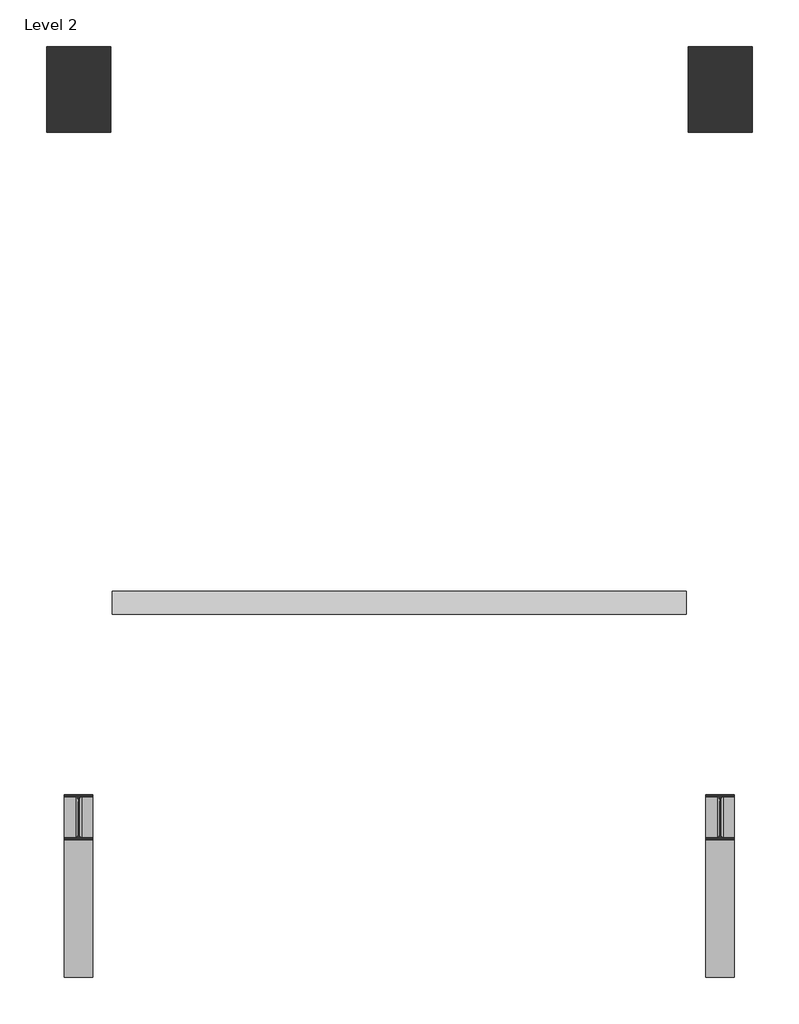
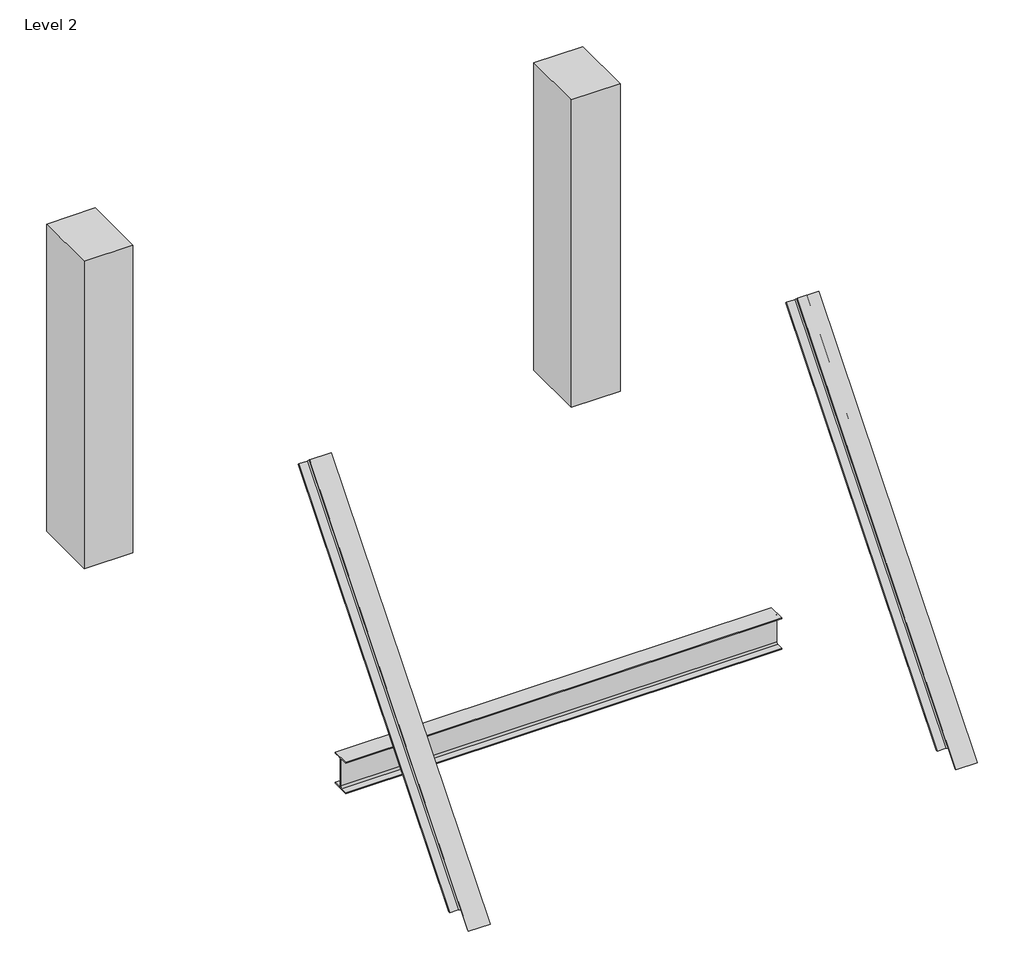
# One storey: 4 columns, 1 beam.
"""IFC4 building model written with IfcOpenShell, lengths in millimetres."""

import ifcopenshell
import ifcopenshell.guid

model = None  # the IFC model being written
_history = None  # IfcOwnerHistory: only IFC2X3 demands one
_inside = {}  # id of a spatial element -> (the spatial element, [elements in it])
_under = {}  # id of a project, library or spatial element -> (it, [spatial elements below it])
_declared = {}  # id of a project -> (the project, [libraries it declares])
_typed = {}  # id of a type object -> (the type object, [elements of that type])
_made_of = {}  # id of a material, layer set ... -> (it, [elements and type objects made of it])


def new_model(schema):
    """Start an empty IFC model of exactly this schema.

    Asked for "IFC4X3", IfcOpenShell would pick the latest addendum, in which some entities
    have other attributes; the version numbers below select the first issue.
    IFC2X3 requires an IfcOwnerHistory on every rooted entity: one is made here for all.
    """
    global model, _history
    if schema == "IFC4X3":
        model = ifcopenshell.file(schema_version=(4, 3, 0, 0))
    else:
        model = ifcopenshell.file(schema=schema)
    _inside.clear()
    _under.clear()
    _declared.clear()
    _typed.clear()
    _made_of.clear()
    _history = None
    if model.schema == "IFC2X3":
        org = make("IfcOrganization", Name="unknown")
        user = make(
            "IfcPersonAndOrganization",
            ThePerson=make("IfcPerson", FamilyName="unknown"),
            TheOrganization=org,
        )
        app = make(
            "IfcApplication",
            ApplicationDeveloper=org,
            Version="unknown",
            ApplicationFullName="unknown",
            ApplicationIdentifier="unknown",
        )
        _history = make(
            "IfcOwnerHistory",
            OwningUser=user,
            OwningApplication=app,
            ChangeAction="ADDED",
            CreationDate=0,
        )
    return model


def make(cls, **values):
    """One entity of the class cls with the attributes given. An attribute that is None is left unset."""
    return model.create_entity(
        cls, **{name: value for name, value in values.items() if value is not None}
    )


def rooted(cls, **values):
    """An entity with a GlobalId (a new one), such as an element, a storey or a relation."""
    return make(cls, GlobalId=ifcopenshell.guid.new(), OwnerHistory=_history, **values)


def si_unit(unit_type, name, prefix=None):
    """IfcSIUnit, for example si_unit("LENGTHUNIT", "METRE", prefix="MILLI")."""
    return make("IfcSIUnit", UnitType=unit_type, Prefix=prefix, Name=name)


def assignment(units):
    """IfcUnitAssignment: the units of a project."""
    return None if units is None else make("IfcUnitAssignment", Units=units)


def point(xyz):
    """IfcCartesianPoint."""
    return None if xyz is None else make("IfcCartesianPoint", Coordinates=xyz)


def direction(xyz):
    """IfcDirection."""
    return None if xyz is None else make("IfcDirection", DirectionRatios=xyz)


def frame(location, z_axis=None, x_axis=None):
    """IfcAxis2Placement3D, a coordinate frame: its origin and axes. An axis left out is left unset."""
    return make(
        "IfcAxis2Placement3D",
        Location=point(location),
        Axis=direction(z_axis),
        RefDirection=direction(x_axis),
    )


def frame_2d(location, x_axis=None):
    """IfcAxis2Placement2D, a coordinate frame in the plane: its origin and x axis."""
    return make(
        "IfcAxis2Placement2D", Location=point(location), RefDirection=direction(x_axis)
    )


def origin():
    """The frame at (0, 0, 0) with its axes left unset."""
    return frame((0.0, 0.0, 0.0))


def place(relative_to, where):
    """IfcLocalPlacement: puts the frame where relative to a parent placement (None: the world)."""
    return make(
        "IfcLocalPlacement", PlacementRelTo=relative_to, RelativePlacement=where
    )


def context(
    kind, dimensions, precision=None, world=None, true_north=None, identifier=None
):
    """IfcGeometricRepresentationContext, for example the 3D "Model" context."""
    return make(
        "IfcGeometricRepresentationContext",
        ContextIdentifier=identifier,
        ContextType=kind,
        CoordinateSpaceDimension=dimensions,
        Precision=precision,
        WorldCoordinateSystem=world,
        TrueNorth=true_north,
    )


def project(units=None, contexts=None):
    """IfcProject with its units and contexts."""
    return rooted(
        "IfcProject",
        Name="project",
        RepresentationContexts=contexts,
        UnitsInContext=assignment(units),
    )


def spatial(cls, under=None, at=None, **own):
    """A site, building, storey or space (cls), placed at a placement, below another one or the project."""
    s = rooted(cls, ObjectPlacement=at, **own)
    if under is not None:
        _under.setdefault(under.id(), (under, []))[1].append(s)
    return s


def polyline(points):
    """IfcPolyline through the points."""
    return make("IfcPolyline", Points=[point(p) for p in points])


def circle_curve(where, radius):
    """IfcCircle in the frame where."""
    return make("IfcCircle", Position=where, Radius=radius)


def ellipse_curve(where, semi_axis1, semi_axis2):
    """IfcEllipse in the frame where."""
    return make(
        "IfcEllipse", Position=where, SemiAxis1=semi_axis1, SemiAxis2=semi_axis2
    )


def trimmed(basis, trim1, trim2, sense, master):
    """IfcTrimmedCurve: the piece of a basis curve between two trims."""
    return make(
        "IfcTrimmedCurve",
        BasisCurve=basis,
        Trim1=trim1,
        Trim2=trim2,
        SenseAgreement=sense,
        MasterRepresentation=master,
    )


def segment(curve, same_sense, transition):
    """IfcCompositeCurveSegment."""
    return make(
        "IfcCompositeCurveSegment",
        Transition=transition,
        SameSense=same_sense,
        ParentCurve=curve,
    )


def composite_curve(segments, self_intersect=None):
    """IfcCompositeCurve: segments joined end to end."""
    return make("IfcCompositeCurve", Segments=segments, SelfIntersect=self_intersect)


def outline(outer, holes=None, kind="AREA"):
    """IfcArbitraryClosedProfileDef: a profile drawn as a closed curve; with holes, ...WithVoids."""
    if holes is None:
        return make("IfcArbitraryClosedProfileDef", ProfileType=kind, OuterCurve=outer)
    return make(
        "IfcArbitraryProfileDefWithVoids",
        ProfileType=kind,
        OuterCurve=outer,
        InnerCurves=holes,
    )


def extrude(swept, where, along, depth):
    """IfcExtrudedAreaSolid: the profile swept, set in the frame where, extruded along a direction by depth."""
    return make(
        "IfcExtrudedAreaSolid",
        SweptArea=swept,
        Position=where,
        ExtrudedDirection=direction(along),
        Depth=depth,
    )


def shape(context_of_items, identifier, shape_type, items):
    """IfcShapeRepresentation: the items that make up one representation, for example the "Body"."""
    return make(
        "IfcShapeRepresentation",
        ContextOfItems=context_of_items,
        RepresentationIdentifier=identifier,
        RepresentationType=shape_type,
        Items=items,
    )


def source(mapping_origin, context_of_items, identifier, shape_type, items):
    """IfcRepresentationMap: a shape defined once, which mapped items show again and again."""
    return make(
        "IfcRepresentationMap",
        MappingOrigin=mapping_origin,
        MappedRepresentation=shape(context_of_items, identifier, shape_type, items),
    )


def transform(
    local_origin,
    x_axis=None,
    y_axis=None,
    z_axis=None,
    scale=None,
    scale2=None,
    scale3=None,
    uniform=True,
):
    """IfcCartesianTransformationOperator3D, or its non-uniform kind. x_axis, y_axis, z_axis: its Axis1, 2, 3."""
    if uniform:
        return make(
            "IfcCartesianTransformationOperator3D",
            Axis1=direction(x_axis),
            Axis2=direction(y_axis),
            LocalOrigin=point(local_origin),
            Scale=scale,
            Axis3=direction(z_axis),
        )
    return make(
        "IfcCartesianTransformationOperator3DnonUniform",
        Axis1=direction(x_axis),
        Axis2=direction(y_axis),
        LocalOrigin=point(local_origin),
        Scale=scale,
        Axis3=direction(z_axis),
        Scale2=scale2,
        Scale3=scale3,
    )


def mapped(mapping_source, mapping_target):
    """IfcMappedItem: shows the shape of a source again, moved by a transform."""
    return make(
        "IfcMappedItem", MappingSource=mapping_source, MappingTarget=mapping_target
    )


def made_of(thing, what):
    """Note that an element or type object is made of a material, layer set ...; save() writes the relation."""
    if what is not None:
        _made_of.setdefault(what.id(), (what, []))[1].append(thing)
    return thing


def element(
    cls,
    number,
    at=None,
    inside=None,
    cuts=None,
    type_object=None,
    material=None,
    context=None,
    identifier="Body",
    shape_type=None,
    held_by="IfcProductDefinitionShape",
    body=None,
    shapes=None,
    **own,
):
    """One element of the class cls, such as IfcWall. Its Tag is "e" and its number.

    at: its placement. inside: the storey or other place that contains it. cuts: it is an
    opening in that element (IfcRelVoidsElement). A single representation is given by context,
    identifier, shape_type and body (its items); several are given by shapes. held_by: the class
    of the entity that holds the representations. save() writes the other relations.
    """
    e = rooted(cls, Tag="e%d" % number, ObjectPlacement=at, **own)
    if body is not None:
        shapes = [shape(context, identifier, shape_type, body)]
    if shapes is not None:
        e.Representation = make(held_by, Representations=shapes)
    if inside is not None:
        _inside.setdefault(inside.id(), (inside, []))[1].append(e)
    if cuts is not None:
        rooted(
            "IfcRelVoidsElement", RelatingBuildingElement=cuts, RelatedOpeningElement=e
        )
    if type_object is not None:
        _typed.setdefault(type_object.id(), (type_object, []))[1].append(e)
    return made_of(e, material)


def aggregate(whole, parts):
    """IfcRelAggregates: a whole, such as a stair, and the parts it consists of."""
    return rooted("IfcRelAggregates", RelatingObject=whole, RelatedObjects=parts)


def save(model, path):
    """Write the relations noted so far, then the file.

    IfcRelAggregates (storeys below a building ...), IfcRelContainedInSpatialStructure (elements
    in a storey), IfcRelDefinesByType, IfcRelAssociatesMaterial and IfcRelDeclares: one each for
    every whole, place, type object, material and project.
    """
    for whole, parts in _under.values():
        aggregate(whole, parts)
    for where, things in _inside.values():
        rooted(
            "IfcRelContainedInSpatialStructure",
            RelatedElements=things,
            RelatingStructure=where,
        )
    for kind, things in _typed.values():
        rooted("IfcRelDefinesByType", RelatedObjects=things, RelatingType=kind)
    for what, things in _made_of.values():
        rooted("IfcRelAssociatesMaterial", RelatedObjects=things, RelatingMaterial=what)
    for by, libraries in _declared.values():
        rooted("IfcRelDeclares", RelatingContext=by, RelatedDefinitions=libraries)
    model.write(path)


def plane_surface(at):
    """IfcPlane: the flat surface through the origin of the frame at, square to its z axis."""
    return make("IfcPlane", Position=at)


def revolved_surface(curve, axis_point, axis_direction):
    """IfcSurfaceOfRevolution: the curve turned about the line through axis_point along axis_direction."""
    return make(
        "IfcSurfaceOfRevolution",
        SweptCurve=make("IfcArbitraryOpenProfileDef", ProfileType="CURVE", Curve=curve),
        AxisPosition=make("IfcAxis1Placement", Location=point(axis_point), Axis=direction(axis_direction)),
    )


def advanced_brep(points, edges, surfaces, faces):
    """IfcAdvancedBrep: a solid bounded by faces that lie on surfaces and meet in shared edges.

    An edge is (start, end): straight between two places in points (the first is 0);
    or (start, end, curve); or (start, end, curve, False) where it runs against its curve.
    A face is (place in surfaces, loops), or (place, loops, False) where it looks against
    its surface's normal. A loop lists edges by number (the first is 1), with a minus sign
    where the edge is run from its end to its start. The first loop is the outer one.
    """
    corners = [point(p) for p in points]
    vertices = [make("IfcVertexPoint", VertexGeometry=c) for c in corners]
    made = []
    for start, end, *more in edges:
        made.append(
            make(
                "IfcEdgeCurve",
                EdgeStart=vertices[start],
                EdgeEnd=vertices[end],
                EdgeGeometry=more[0] if more else make("IfcPolyline", Points=[corners[start], corners[end]]),
                SameSense=more[1] if len(more) > 1 else True,
            )
        )
    hull = []
    for where, loops, *sense in faces:
        bounds = []
        for j, loop in enumerate(loops):
            ring = [make("IfcOrientedEdge", EdgeElement=made[abs(k) - 1], Orientation=k > 0) for k in loop]
            bounds.append(
                make(
                    "IfcFaceOuterBound" if j == 0 else "IfcFaceBound",
                    Bound=make("IfcEdgeLoop", EdgeList=ring),
                    Orientation=True,
                )
            )
        hull.append(make("IfcAdvancedFace", Bounds=bounds, FaceSurface=surfaces[where], SameSense=sense[0] if sense else True))
    return make("IfcAdvancedBrep", Outer=make("IfcClosedShell", CfsFaces=hull))


def w_wide_flange_w12x26_f50af644(model_context):
    return source(origin(), model_context, "Body", "SweptSolid", [
        extrude(outline(composite_curve([segment(polyline([(82.4011719, -145.5539063), (82.4011719, -155.178125), (-82.4011719, -155.178125), (-82.4011719, -145.5539063), (-20.2902344, -145.5539063)]), True, "CONTINUOUS"), segment(trimmed(circle_curve(frame_2d((-20.2902344, -128.190625)), 17.3632812), [point((-20.2902344, -145.5539063))], [point((-2.9269531, -128.190625))], True, "CARTESIAN"), True, "CONTINUOUS"), segment(polyline([(-2.9269531, -128.190625), (-2.9269531, 128.190625)]), True, "CONTINUOUS"), segment(trimmed(circle_curve(frame_2d((-20.2902344, 128.190625)), 17.3632812), [point((-2.9269531, 128.190625))], [point((-20.2902344, 145.5539062))], True, "CARTESIAN"), True, "CONTINUOUS"), segment(polyline([(-20.2902344, 145.5539062), (-82.4011719, 145.5539062), (-82.4011719, 155.178125), (82.4011719, 155.178125), (82.4011719, 145.5539062), (20.2902344, 145.5539062)]), True, "CONTINUOUS"), segment(trimmed(circle_curve(frame_2d((20.2902344, 128.190625)), 17.3632812), [point((20.2902344, 145.5539062))], [point((2.9269531, 128.190625))], True, "CARTESIAN"), True, "CONTINUOUS"), segment(polyline([(2.9269531, 128.190625), (2.9269531, -128.190625)]), True, "CONTINUOUS"), segment(trimmed(circle_curve(frame_2d((20.2902344, -128.190625)), 17.3632812), [point((2.9269531, -128.190625))], [point((20.2902344, -145.5539063))], True, "CARTESIAN"), True, "CONTINUOUS"), segment(polyline([(20.2902344, -145.5539063), (82.4011719, -145.5539063)]), True, "CONTINUOUS")], self_intersect=False)), frame((-2044.7, 0.0, 0.0), z_axis=(1.0, 0.0, 0.0), x_axis=(0.0, 1.0, 0.0)), (0.0, 0.0, 1.0), 4089.4),
    ])


model = new_model("IFC4")

# Units and contexts
model_context = context("Model", 3, world=origin())
ifc_project = project(units=[si_unit("LENGTHUNIT", "METRE", prefix="MILLI")], contexts=[model_context])

# Site, building, storey
site = spatial("IfcSite", under=ifc_project)
building = spatial("IfcBuilding", under=site)
storey = spatial("IfcBuildingStorey", under=building, Name="Level 2", Elevation=3048.0)

# Beam
placement = place(None, origin())
w_wide_flange_w12x26_shape = w_wide_flange_w12x26_f50af644(model_context)
element("IfcBeam", 1, ObjectType="W-Wide Flange : W12X26", at=placement, inside=storey, context=model_context, shape_type="MappedRepresentation", body=[
    mapped(w_wide_flange_w12x26_shape, transform((-15108.9871131, 6535.561515, 2892.821875), x_axis=(1.0, 0.0, 0.0), y_axis=(0.0, 1.0, 0.0), z_axis=(0.0, 0.0, 1.0))),
])

# Columns
element("IfcColumn", 2, ObjectType="Concrete-Rectangular-Column : 18 x 24", at=placement, inside=storey, context=model_context, shape_type="SweptSolid", body=[
    extrude(outline(polyline([(-17166.3871131, 10497.961515), (-17166.3871131, 9888.361515), (-17623.5871131, 9888.361515), (-17623.5871131, 10497.961515), (-17166.3871131, 10497.961515)])), frame((0.0, 0.0, 3048.0), z_axis=(0.0, 0.0, 1.0), x_axis=(1.0, 0.0, 0.0)), (0.0, 0.0, 1.0), 3048.0),
])
element("IfcColumn", 3, ObjectType="Concrete-Rectangular-Column : 18 x 24", at=placement, inside=storey, context=model_context, shape_type="SweptSolid", body=[
    extrude(outline(polyline([(-12594.3871131, 10497.961515), (-12594.3871131, 9888.361515), (-13051.5871131, 9888.361515), (-13051.5871131, 10497.961515), (-12594.3871131, 10497.961515)])), frame((0.0, 0.0, 3048.0), z_axis=(0.0, 0.0, 1.0), x_axis=(1.0, 0.0, 0.0)), (0.0, 0.0, 1.0), 3048.0),
])
element("IfcColumn", 4, ObjectType="W-Wide Flange-Column : W10X33", at=placement, inside=storey, context=model_context, shape_type="AdvancedBrep", body=[
    advanced_brep(
    [(-17293.8832068, 3864.141078, 3060.7), (-17496.0910193, 3864.141078, 3060.7), (-17496.0910193, 3878.4345568, 3060.7), (-17416.2199256, 3878.4345568, 3060.7), (-17398.6582068, 3901.2268608, 3060.7), (-17398.6582068, 4147.8215624, 3060.7), (-17416.2199256, 4170.6138664, 3060.7), (-17496.0910193, 4170.6138664, 3060.7), (-17496.0910193, 4184.9073452, 3060.7), (-17293.8832068, 4184.9073452, 3060.7), (-17293.8832068, 4170.6138664, 3060.7), (-17373.7543006, 4170.6138664, 3060.7), (-17391.3160193, 4147.8215624, 3060.7), (-17391.3160193, 3901.2268608, 3060.7), (-17373.7543006, 3878.4345568, 3060.7), (-17293.8832068, 3878.4345568, 3060.7), (-17496.0910193, 6440.3441253, 6174.771264), (-17293.8832068, 6440.3441253, 6174.771264), (-17293.8832068, 6448.8299786, 6167.7511032), (-17373.7543006, 6448.8299786, 6167.7511032), (-17391.3160193, 6462.3614743, 6156.5567927), (-17391.3160193, 6608.7615557, 6035.4432073), (-17373.7543006, 6622.2930515, 6024.2488968), (-17293.8832068, 6622.2930515, 6024.2488968), (-17293.8832068, 6630.7789048, 6017.228736), (-17496.0910193, 6630.7789048, 6017.228736), (-17496.0910193, 6622.2930515, 6024.2488968), (-17416.2199256, 6622.2930515, 6024.2488968), (-17398.6582068, 6608.7615557, 6035.4432073), (-17398.6582068, 6462.3614743, 6156.5567927), (-17416.2199256, 6448.8299786, 6167.7511032), (-17496.0910193, 6448.8299786, 6167.7511032)],
    [
        (0, 1),
        (1, 2),
        (2, 3),
        (3, 4, ellipse_curve(frame((-17416.2199256, 3901.2268608, 3060.7), z_axis=(0.0, 0.0, 1.0), x_axis=(0.0, -1.0, 0.0)), 22.792304, 17.5617187)),
        (4, 5),
        (5, 6, ellipse_curve(frame((-17416.2199256, 4147.8215624, 3060.7), z_axis=(0.0, 0.0, 1.0), x_axis=(0.0, -1.0, 0.0)), 22.792304, 17.5617187)),
        (6, 7),
        (7, 8),
        (8, 9),
        (9, 10),
        (10, 11),
        (11, 12, ellipse_curve(frame((-17373.7543006, 4147.8215624, 3060.7), z_axis=(0.0, 0.0, 1.0), x_axis=(0.0, -1.0, 0.0)), 22.792304, 17.5617187)),
        (12, 13),
        (13, 14, ellipse_curve(frame((-17373.7543006, 3901.2268608, 3060.7), z_axis=(0.0, 0.0, 1.0), x_axis=(0.0, -1.0, 0.0)), 22.792304, 17.5617187)),
        (14, 15),
        (15, 0),
        (16, 17),
        (17, 18),
        (18, 19),
        (19, 20, circle_curve(frame((-17373.7543006, 6462.3614743, 6156.5567927), z_axis=(0.0, -0.6374268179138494, -0.7705109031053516), x_axis=(-1.0, 0.0, 0.0)), 17.5617187)),
        (20, 21),
        (21, 22, circle_curve(frame((-17373.7543006, 6608.7615557, 6035.4432073), z_axis=(0.0, -0.6374268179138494, -0.7705109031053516), x_axis=(-1.0, 0.0, 0.0)), 17.5617188)),
        (22, 23),
        (23, 24),
        (24, 25),
        (25, 26),
        (26, 27),
        (27, 28, circle_curve(frame((-17416.2199256, 6608.7615557, 6035.4432073), z_axis=(0.0, -0.6374268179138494, -0.7705109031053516), x_axis=(-1.0, 0.0, 0.0)), 17.5617188)),
        (28, 29),
        (29, 30, circle_curve(frame((-17416.2199256, 6462.3614743, 6156.5567927), z_axis=(0.0, -0.6374268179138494, -0.7705109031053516), x_axis=(-1.0, 0.0, 0.0)), 17.5617188)),
        (30, 31),
        (31, 16),
        (16, 1),
        (0, 17),
        (15, 18),
        (14, 19),
        (13, 20),
        (12, 21),
        (11, 22),
        (10, 23),
        (9, 24),
        (8, 25),
        (7, 26),
        (6, 27),
        (5, 28),
        (4, 29),
        (3, 30),
        (2, 31),
    ],
    [
        plane_surface(frame((-17394.9871131, 4014.0177794, 3060.7), z_axis=(0.0, 0.0, -1.0), x_axis=(1.0, 0.0, 0.0))),
        plane_surface(frame((-17293.8832068, 6440.3441253, 6174.771264), z_axis=(0.0, 0.6374268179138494, 0.7705109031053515), x_axis=(1.0, 0.0, 0.0))),
        plane_surface(frame((-17496.0910193, 6440.3441253, 6174.771264), z_axis=(0.0, -0.7705109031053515, 0.6374268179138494), x_axis=(0.0, -0.6374268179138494, -0.7705109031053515))),
        plane_surface(frame((-17293.8832068, 6440.3441253, 6174.771264), z_axis=(1.0, 0.0, 0.0), x_axis=(0.0, -0.6374268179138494, -0.7705109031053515))),
        plane_surface(frame((-17293.8832068, 6448.8299786, 6167.7511032), z_axis=(0.0, 0.7705109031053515, -0.6374268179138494), x_axis=(0.0, -0.6374268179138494, -0.7705109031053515))),
        revolved_surface(polyline([(-17391.3160193, 3891.966052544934, 3049.505689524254), (-17391.3160193, 6462.361474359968, 6156.556792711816)]), (-17373.7543006, 3687.1476276, 2801.9245945), (0.0, -0.6374268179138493, -0.7705109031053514)),
        plane_surface(frame((-17391.3160193, 6462.3614743, 6156.5567927), z_axis=(1.0, 0.0, 0.0), x_axis=(0.0, -0.6374268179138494, -0.7705109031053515))),
        revolved_surface(polyline([(-17391.3160193, 4138.560754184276, 3049.505689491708), (-17391.3160193, 6608.76155574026, 6035.443207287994)]), (-17373.7543006, 3833.547709, 2680.8110091), (0.0, -0.6374268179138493, -0.7705109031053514)),
        plane_surface(frame((-17373.7543006, 6622.2930515, 6024.2488968), z_axis=(0.0, -0.7705109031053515, 0.6374268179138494), x_axis=(0.0, -0.6374268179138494, -0.7705109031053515))),
        plane_surface(frame((-17293.8832068, 6622.2930515, 6024.2488968), z_axis=(1.0, 0.0, 0.0), x_axis=(0.0, -0.6374268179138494, -0.7705109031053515))),
        plane_surface(frame((-17293.8832068, 6630.7789048, 6017.228736), z_axis=(0.0, 0.7705109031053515, -0.6374268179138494), x_axis=(0.0, -0.6374268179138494, -0.7705109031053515))),
        plane_surface(frame((-17496.0910193, 6630.7789048, 6017.228736), z_axis=(-1.0, 0.0, 0.0), x_axis=(0.0, -0.6374268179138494, -0.7705109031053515))),
        plane_surface(frame((-17496.0910193, 6622.2930515, 6024.2488968), z_axis=(0.0, -0.7705109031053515, 0.6374268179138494), x_axis=(0.0, -0.6374268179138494, -0.7705109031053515))),
        revolved_surface(polyline([(-17433.781644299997, 4138.560754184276, 3049.505689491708), (-17433.781644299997, 6608.76155574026, 6035.443207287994)]), (-17416.2199256, 3833.547709, 2680.8110091), (0.0, -0.6374268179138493, -0.7705109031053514)),
        plane_surface(frame((-17398.6582068, 6608.7615557, 6035.4432073), z_axis=(-1.0, 0.0, 0.0), x_axis=(0.0, -0.6374268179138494, -0.7705109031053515))),
        revolved_surface(polyline([(-17433.781644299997, 3891.966052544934, 3049.505689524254), (-17433.781644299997, 6462.361474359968, 6156.556792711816)]), (-17416.2199256, 3687.1476276, 2801.9245945), (0.0, -0.6374268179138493, -0.7705109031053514)),
        plane_surface(frame((-17416.2199256, 6448.8299786, 6167.7511032), z_axis=(0.0, 0.7705109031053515, -0.6374268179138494), x_axis=(0.0, -0.6374268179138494, -0.7705109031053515))),
        plane_surface(frame((-17496.0910193, 6448.8299786, 6167.7511032), z_axis=(-1.0, 0.0, 0.0), x_axis=(0.0, -0.6374268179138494, -0.7705109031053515))),
    ],
    [
        (0, [[1, 2, 3, 4, 5, 6, 7, 8, 9, 10, 11, 12, 13, 14, 15, 16]]),
        (1, [[17, 18, 19, 20, 21, 22, 23, 24, 25, 26, 27, 28, 29, 30, 31, 32]]),
        (2, [[-17, 33, -1, 34]]),
        (3, [[-18, -34, -16, 35]]),
        (4, [[-19, -35, -15, 36]]),
        (5, [[-20, -36, -14, 37]]),
        (6, [[-21, -37, -13, 38]]),
        (7, [[-22, -38, -12, 39]]),
        (8, [[-23, -39, -11, 40]]),
        (9, [[-24, -40, -10, 41]]),
        (10, [[-25, -41, -9, 42]]),
        (11, [[-26, -42, -8, 43]]),
        (12, [[-27, -43, -7, 44]]),
        (13, [[-28, -44, -6, 45]]),
        (14, [[-29, -45, -5, 46]]),
        (15, [[-30, -46, -4, 47]]),
        (16, [[-31, -47, -3, 48]]),
        (17, [[-32, -48, -2, -33]]),
    ],
),
])
element("IfcColumn", 5, ObjectType="W-Wide Flange-Column : W10X33", at=placement, inside=storey, context=model_context, shape_type="AdvancedBrep", body=[
    advanced_brep(
    [(-12721.8832068, 3864.141078, 3060.7), (-12924.0910193, 3864.141078, 3060.7), (-12924.0910193, 3878.4345568, 3060.7), (-12844.2199256, 3878.4345568, 3060.7), (-12826.6582068, 3901.2268608, 3060.7), (-12826.6582068, 4147.8215624, 3060.7), (-12844.2199256, 4170.6138664, 3060.7), (-12924.0910193, 4170.6138664, 3060.7), (-12924.0910193, 4184.9073452, 3060.7), (-12721.8832068, 4184.9073452, 3060.7), (-12721.8832068, 4170.6138664, 3060.7), (-12801.7543006, 4170.6138664, 3060.7), (-12819.3160193, 4147.8215624, 3060.7), (-12819.3160193, 3901.2268608, 3060.7), (-12801.7543006, 3878.4345568, 3060.7), (-12721.8832068, 3878.4345568, 3060.7), (-12924.0910193, 6440.3441253, 6174.771264), (-12721.8832068, 6440.3441253, 6174.771264), (-12721.8832068, 6448.8299786, 6167.7511032), (-12801.7543006, 6448.8299786, 6167.7511032), (-12819.3160193, 6462.3614743, 6156.5567927), (-12819.3160193, 6608.7615557, 6035.4432073), (-12801.7543006, 6622.2930515, 6024.2488968), (-12721.8832068, 6622.2930515, 6024.2488968), (-12721.8832068, 6630.7789048, 6017.228736), (-12924.0910193, 6630.7789048, 6017.228736), (-12924.0910193, 6622.2930515, 6024.2488968), (-12844.2199256, 6622.2930515, 6024.2488968), (-12826.6582068, 6608.7615557, 6035.4432073), (-12826.6582068, 6462.3614743, 6156.5567927), (-12844.2199256, 6448.8299786, 6167.7511032), (-12924.0910193, 6448.8299786, 6167.7511032)],
    [
        (0, 1),
        (1, 2),
        (2, 3),
        (3, 4, ellipse_curve(frame((-12844.2199256, 3901.2268608, 3060.7), z_axis=(0.0, 0.0, 1.0), x_axis=(0.0, -0.9999999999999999, 0.0)), 22.792304, 17.5617187)),
        (4, 5),
        (5, 6, ellipse_curve(frame((-12844.2199256, 4147.8215624, 3060.7), z_axis=(0.0, 0.0, 1.0), x_axis=(0.0, -0.9999999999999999, 0.0)), 22.792304, 17.5617187)),
        (6, 7),
        (7, 8),
        (8, 9),
        (9, 10),
        (10, 11),
        (11, 12, ellipse_curve(frame((-12801.7543006, 4147.8215624, 3060.7), z_axis=(0.0, 0.0, 1.0), x_axis=(0.0, -0.9999999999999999, 0.0)), 22.792304, 17.5617187)),
        (12, 13),
        (13, 14, ellipse_curve(frame((-12801.7543006, 3901.2268608, 3060.7), z_axis=(0.0, 0.0, 1.0), x_axis=(0.0, -0.9999999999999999, 0.0)), 22.792304, 17.5617187)),
        (14, 15),
        (15, 0),
        (16, 17),
        (17, 18),
        (18, 19),
        (19, 20, circle_curve(frame((-12801.7543006, 6462.3614743, 6156.5567927), z_axis=(0.0, -0.6374268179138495, -0.7705109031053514), x_axis=(-1.0, 0.0, 0.0)), 17.5617188)),
        (20, 21),
        (21, 22, circle_curve(frame((-12801.7543006, 6608.7615557, 6035.4432073), z_axis=(0.0, -0.6374268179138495, -0.7705109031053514), x_axis=(-1.0, 0.0, 0.0)), 17.5617188)),
        (22, 23),
        (23, 24),
        (24, 25),
        (25, 26),
        (26, 27),
        (27, 28, circle_curve(frame((-12844.2199256, 6608.7615557, 6035.4432073), z_axis=(0.0, -0.6374268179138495, -0.7705109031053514), x_axis=(-1.0, 0.0, 0.0)), 17.5617187)),
        (28, 29),
        (29, 30, circle_curve(frame((-12844.2199256, 6462.3614743, 6156.5567927), z_axis=(0.0, -0.6374268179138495, -0.7705109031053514), x_axis=(-1.0, 0.0, 0.0)), 17.5617188)),
        (30, 31),
        (31, 16),
        (16, 1),
        (0, 17),
        (15, 18),
        (14, 19),
        (13, 20),
        (12, 21),
        (11, 22),
        (10, 23),
        (9, 24),
        (8, 25),
        (7, 26),
        (6, 27),
        (5, 28),
        (4, 29),
        (3, 30),
        (2, 31),
    ],
    [
        plane_surface(frame((-12822.9871131, 4014.0177794, 3060.7), z_axis=(0.0, 0.0, -1.0), x_axis=(1.0, 0.0, 0.0))),
        plane_surface(frame((-12721.8832068, 6440.3441253, 6174.771264), z_axis=(0.0, 0.6374268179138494, 0.7705109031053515), x_axis=(1.0, 0.0, 0.0))),
        plane_surface(frame((-12924.0910193, 6440.3441253, 6174.771264), z_axis=(0.0, -0.7705109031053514, 0.6374268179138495), x_axis=(0.0, -0.6374268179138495, -0.7705109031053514))),
        plane_surface(frame((-12721.8832068, 6440.3441253, 6174.771264), z_axis=(1.0, 0.0, 0.0), x_axis=(0.0, -0.6374268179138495, -0.7705109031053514))),
        plane_surface(frame((-12721.8832068, 6448.8299786, 6167.7511032), z_axis=(0.0, 0.7705109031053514, -0.6374268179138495), x_axis=(0.0, -0.6374268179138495, -0.7705109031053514))),
        revolved_surface(polyline([(-12819.3160193, 3891.9660525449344, 3049.505689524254), (-12819.3160193, 6462.361474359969, 6156.556792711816)]), (-12801.7543006, 3687.1476276, 2801.9245945), (0.0, -0.6374268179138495, -0.7705109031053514)),
        plane_surface(frame((-12819.3160193, 6462.3614743, 6156.5567927), z_axis=(1.0, 0.0, 0.0), x_axis=(0.0, -0.6374268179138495, -0.7705109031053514))),
        revolved_surface(polyline([(-12819.3160193, 4138.560754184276, 3049.505689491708), (-12819.3160193, 6608.7615557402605, 6035.443207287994)]), (-12801.7543006, 3833.547709, 2680.8110091), (0.0, -0.6374268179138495, -0.7705109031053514)),
        plane_surface(frame((-12801.7543006, 6622.2930515, 6024.2488968), z_axis=(0.0, -0.7705109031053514, 0.6374268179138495), x_axis=(0.0, -0.6374268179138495, -0.7705109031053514))),
        plane_surface(frame((-12721.8832068, 6622.2930515, 6024.2488968), z_axis=(1.0, 0.0, 0.0), x_axis=(0.0, -0.6374268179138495, -0.7705109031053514))),
        plane_surface(frame((-12721.8832068, 6630.7789048, 6017.228736), z_axis=(0.0, 0.7705109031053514, -0.6374268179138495), x_axis=(0.0, -0.6374268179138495, -0.7705109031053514))),
        plane_surface(frame((-12924.0910193, 6630.7789048, 6017.228736), z_axis=(-1.0, 0.0, 0.0), x_axis=(0.0, -0.6374268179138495, -0.7705109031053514))),
        plane_surface(frame((-12924.0910193, 6622.2930515, 6024.2488968), z_axis=(0.0, -0.7705109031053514, 0.6374268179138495), x_axis=(0.0, -0.6374268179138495, -0.7705109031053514))),
        revolved_surface(polyline([(-12861.781644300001, 4138.560754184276, 3049.505689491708), (-12861.781644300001, 6608.7615557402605, 6035.443207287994)]), (-12844.2199256, 3833.547709, 2680.8110091), (0.0, -0.6374268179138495, -0.7705109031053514)),
        plane_surface(frame((-12826.6582068, 6608.7615557, 6035.4432073), z_axis=(-1.0, 0.0, 0.0), x_axis=(0.0, -0.6374268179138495, -0.7705109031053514))),
        revolved_surface(polyline([(-12861.781644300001, 3891.9660525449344, 3049.505689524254), (-12861.781644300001, 6462.361474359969, 6156.556792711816)]), (-12844.2199256, 3687.1476276, 2801.9245945), (0.0, -0.6374268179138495, -0.7705109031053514)),
        plane_surface(frame((-12844.2199256, 6448.8299786, 6167.7511032), z_axis=(0.0, 0.7705109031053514, -0.6374268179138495), x_axis=(0.0, -0.6374268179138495, -0.7705109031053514))),
        plane_surface(frame((-12924.0910193, 6448.8299786, 6167.7511032), z_axis=(-1.0, 0.0, 0.0), x_axis=(0.0, -0.6374268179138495, -0.7705109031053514))),
    ],
    [
        (0, [[1, 2, 3, 4, 5, 6, 7, 8, 9, 10, 11, 12, 13, 14, 15, 16]]),
        (1, [[17, 18, 19, 20, 21, 22, 23, 24, 25, 26, 27, 28, 29, 30, 31, 32]]),
        (2, [[-17, 33, -1, 34]]),
        (3, [[-18, -34, -16, 35]]),
        (4, [[-19, -35, -15, 36]]),
        (5, [[-20, -36, -14, 37]]),
        (6, [[-21, -37, -13, 38]]),
        (7, [[-22, -38, -12, 39]]),
        (8, [[-23, -39, -11, 40]]),
        (9, [[-24, -40, -10, 41]]),
        (10, [[-25, -41, -9, 42]]),
        (11, [[-26, -42, -8, 43]]),
        (12, [[-27, -43, -7, 44]]),
        (13, [[-28, -44, -6, 45]]),
        (14, [[-29, -45, -5, 46]]),
        (15, [[-30, -46, -4, 47]]),
        (16, [[-31, -47, -3, 48]]),
        (17, [[-32, -48, -2, -33]]),
    ],
),
])

save(model, "model.ifc")
